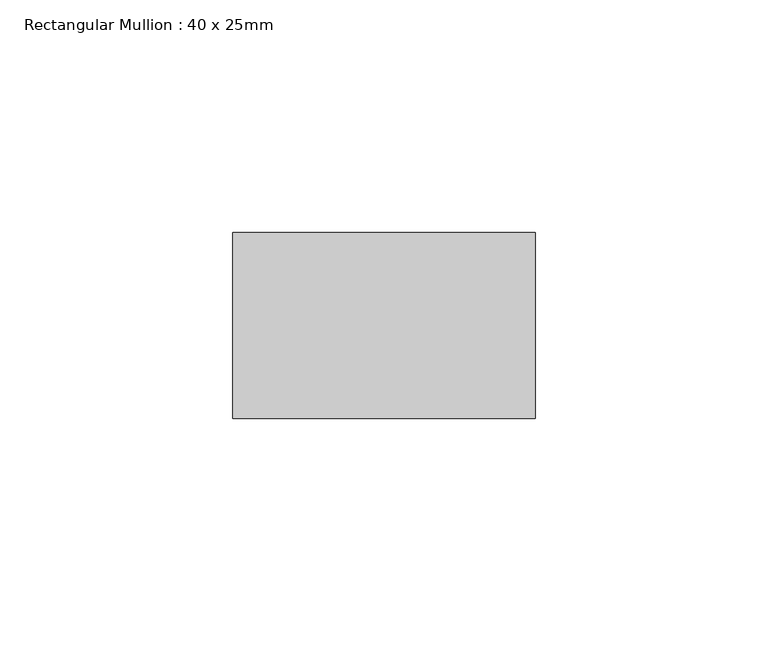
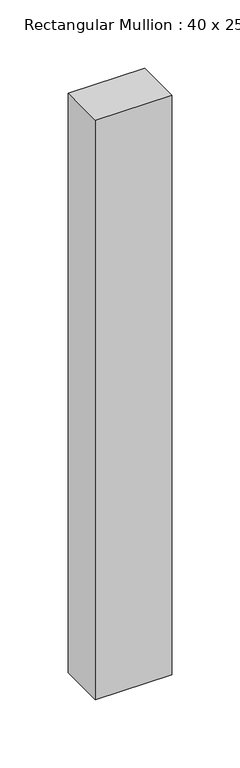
"""IFC4 building model written with IfcOpenShell, lengths in millimetres: member geometry, Rectangular Mullion : 40 x 25mm."""

from ifc_helpers import new_model, si_unit, frame, origin, place, context, project, spatial, polyline, outline, extrude, source, transform, mapped, element, save


def rectangular_mullion_40_x_25mm_18a7fefc(model_context):
    return source(origin(), model_context, "Body", "SweptSolid", [
        extrude(outline(polyline([(40.0, -20.0), (40.0, -60.0), (-25.0, -60.0), (-25.0, -20.0), (40.0, -20.0)])), frame((0.0, 0.0, -520.0), z_axis=(0.0, 0.0, 1.0), x_axis=(1.0, 0.0, 0.0)), (0.0, 0.0, 1.0), 520.0),
    ])


if __name__ == "__main__":
    model = new_model("IFC4")
    model_context = context("Model", 3, world=origin())
    ifc_project = project(units=[si_unit("LENGTHUNIT", "METRE", prefix="MILLI")], contexts=[model_context])
    site = spatial("IfcSite", under=ifc_project)
    building = spatial("IfcBuilding", under=site)
    placement = place(None, origin())
    rectangular_mullion_40_x_25mm_shape = rectangular_mullion_40_x_25mm_18a7fefc(model_context)
    element("IfcMember", 1, ObjectType="Rectangular Mullion : 40 x 25mm", at=placement, inside=building, context=model_context, shape_type="MappedRepresentation", body=[
        mapped(rectangular_mullion_40_x_25mm_shape, transform((0.0, 0.0, 0.0), x_axis=(1.0, 0.0, 0.0), y_axis=(0.0, 1.0, 0.0), z_axis=(0.0, 0.0, 1.0))),
    ])
    save(model, "model.ifc")
